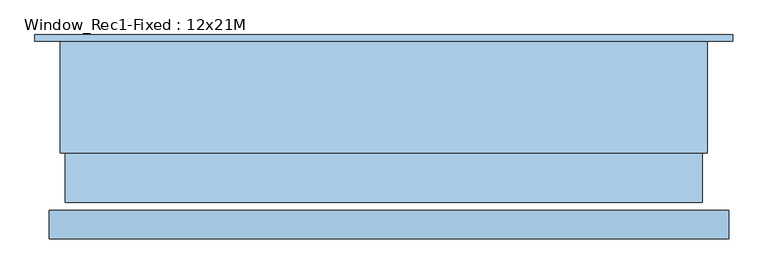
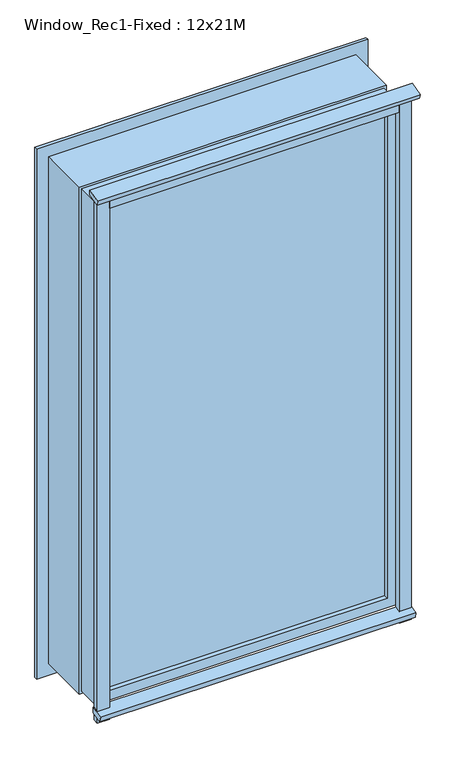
"""IFC4 building model written with IfcOpenShell, lengths in millimetres: window geometry, Window_Rec1-Fixed : 12x21M."""

from ifc_helpers import new_model, si_unit, frame, origin, place, context, project, spatial, polyline, outline, extrude, source, transform, mapped, element, save


def window_rec1_fixed_12x21m_f26c8ee9(model_context):
    return source(origin(), model_context, "Body", "SweptSolid", [
        extrude(outline(polyline([(-220.0508419, 3194.3065207), (-166.8369888, 3208.5651297), (-166.8369888, 3188.8948822), (-215.1332801, 3175.95393), (-220.0508419, 3194.3065207)])), frame((-530.0, 0.0, 0.0), z_axis=(1.0, 0.0, 0.0), x_axis=(0.0, 1.0, 0.0)), (0.0, 0.0, 1.0), 1270.0),
        extrude(outline(polyline([(-215.1332801, 1040.6791642), (-166.8369888, 1053.6201165), (-166.8369888, 1030.8440405), (-209.4392611, 1019.4287961), (-215.1332801, 1040.6791642)])), frame((-516.0, 0.0, 0.0), z_axis=(1.0, 0.0, 0.0), x_axis=(0.0, 1.0, 0.0)), (0.0, 0.0, 1.0), 1242.0),
        extrude(outline(polyline([(-465.0, -166.8369888), (675.0, -166.8369888), (675.0, -188.8369888), (-465.0, -188.8369888), (-465.0, -166.8369888)])), frame((0.0, 0.0, 1005.0051732), z_axis=(0.0, 0.0, 1.0), x_axis=(1.0, 0.0, 0.0)), (0.0, 0.0, 1.0), 20.0),
        extrude(outline(polyline([(-465.0, -166.8369888), (675.0, -166.8369888), (675.0, -188.8369888), (-465.0, -188.8369888), (-465.0, -166.8369888)])), frame((0.0, 0.0, 3125.0), z_axis=(0.0, 0.0, 1.0), x_axis=(1.0, 0.0, 0.0)), (0.0, 0.0, 1.0), 60.0),
        extrude(outline(polyline([(723.0, -166.8369888), (723.0, -188.8369888), (675.0, -188.8369888), (675.0, -166.8369888), (723.0, -166.8369888)])), frame((0.0, 0.0, 1000.0), z_axis=(0.0, 0.0, 1.0), x_axis=(1.0, 0.0, 0.0)), (0.0, 0.0, 1.0), 2189.0),
        extrude(outline(polyline([(-465.0, -166.8369888), (-465.0, -188.8369888), (-513.0, -188.8369888), (-513.0, -166.8369888), (-465.0, -166.8369888)])), frame((0.0, 0.0, 1000.0), z_axis=(0.0, 0.0, 1.0), x_axis=(1.0, 0.0, 0.0)), (0.0, 0.0, 1.0), 2189.1537013),
        extrude(outline(polyline([(1050.0, 690.0), (3140.0, 690.0), (3140.0, -500.0), (1050.0, -500.0), (1050.0, 690.0)]), holes=[polyline([(3100.0, 650.0), (1090.0, 650.0), (1090.0, -460.0), (3100.0, -460.0), (3100.0, 650.0)])]), frame((0.0, -151.8369888, 0.0), z_axis=(0.0, 1.0, 0.0), x_axis=(0.0, 0.0, 1.0)), (0.0, 0.0, 1.0), 92.0),
        extrude(outline(polyline([(650.0, -109.3369888), (650.0, -134.3369888), (-460.0, -134.3369888), (-460.0, -109.3369888), (650.0, -109.3369888)])), frame((0.0, 0.0, 1090.0), z_axis=(0.0, 0.0, 1.0), x_axis=(1.0, 0.0, 0.0)), (0.0, 0.0, 1.0), 2010.0),
        extrude(outline(polyline([(3150.0, 700.0), (3150.0, -510.0), (1040.0, -510.0), (1040.0, 700.0), (3150.0, 700.0)]), holes=[polyline([(1050.0, -500.0), (3140.0, -500.0), (3140.0, 690.0), (1050.0, 690.0), (1050.0, -500.0)])]), frame((0.0, -59.8369888, 0.0), z_axis=(0.0, 1.0, 0.0), x_axis=(0.0, 0.0, 1.0)), (0.0, 0.0, 1.0), 209.0),
        extrude(outline(polyline([(993.0, 747.0), (3197.0, 747.0), (3197.0, -557.0), (993.0, -557.0), (993.0, 747.0)]), holes=[polyline([(3145.0, 695.0), (1045.0, 695.0), (1045.0, -505.0), (3145.0, -505.0), (3145.0, 695.0)])]), frame((0.0, 149.1630112, 0.0), z_axis=(0.0, 1.0, 0.0), x_axis=(0.0, 0.0, 1.0)), (0.0, 0.0, 1.0), 12.0),
    ])


if __name__ == "__main__":
    model = new_model("IFC4")
    model_context = context("Model", 3, world=origin())
    ifc_project = project(units=[si_unit("LENGTHUNIT", "METRE", prefix="MILLI")], contexts=[model_context])
    site = spatial("IfcSite", under=ifc_project)
    building = spatial("IfcBuilding", under=site)
    placement = place(None, origin())
    window_rec1_fixed_12x21m_shape = window_rec1_fixed_12x21m_f26c8ee9(model_context)
    element("IfcWindow", 1, ObjectType="Window_Rec1-Fixed : 12x21M", at=placement, inside=building, context=model_context, shape_type="MappedRepresentation", body=[
        mapped(window_rec1_fixed_12x21m_shape, transform((0.0, 0.0, 0.0), x_axis=(1.0, 0.0, 0.0), y_axis=(0.0, 1.0, 0.0), z_axis=(0.0, 0.0, 1.0))),
    ])
    save(model, "model.ifc")
